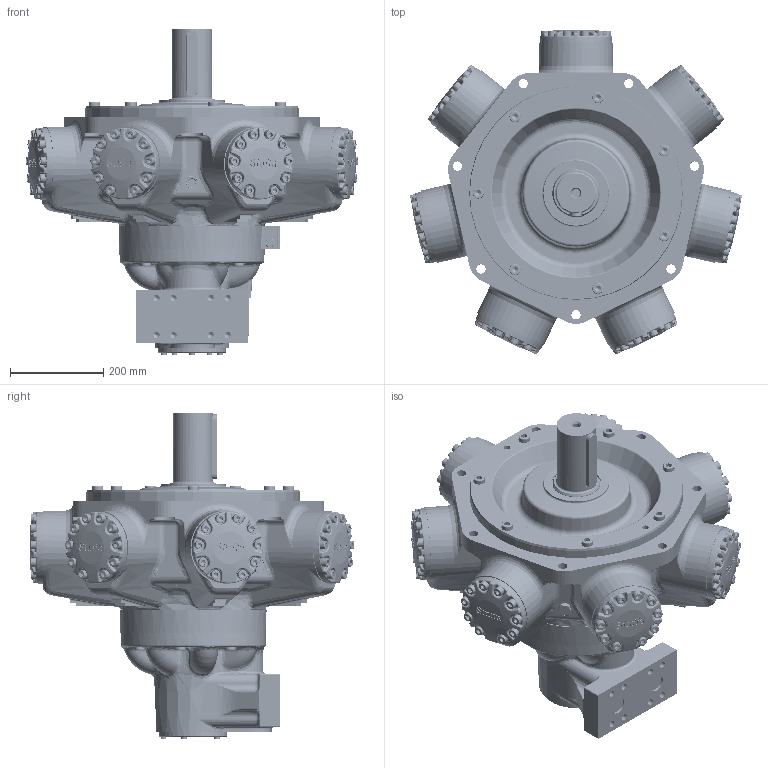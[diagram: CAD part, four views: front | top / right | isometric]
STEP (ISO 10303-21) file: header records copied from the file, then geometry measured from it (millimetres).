
FILE_DESCRIPTION(/* description */ (''),/* implementation_level */ '2;1');
FILE_NAME(/* name */ 'HMC270_P1_SFM4_CS_72.stp',/* time_stamp */ '2025-04-29T09:39:05+01:00',/* author */ ('ccallanga'),/* organization */ (''),/* preprocessor_version */ 'ST-DEVELOPER v20',/* originating_system */ 'Autodesk Inventor 2024',/* authorisation */ '');
FILE_SCHEMA (('AUTOMOTIVE_DESIGN { 1 0 10303 214 3 1 1 }'));
Products named in the file (1): 017752 HMC270 Web Assembly_Simplify_1
Bounding box: 711.04 x 695.71 x 698.32 mm (x, y, z)
Volume: 73414245.3 mm3; surface area: 1720057 mm2
Topology: 1 solids, 1 shells, 6940 faces, 17028 edges, 10170 vertices
Faces by surface type: bspline 2703, plane 1986, cylinder 1292, torus 504, cone 279, sphere 176
Full cylindrical faces by diameter (mm): 2.2 x4, 4 x1, 4.134 x4, 5.5 x9, 6 x1, 6.05 x2, 6.2 x1, 6.5 x1, 7 x2, 8.016 x1, 9.4 x1, 9.94 x1, 11.445 x3, 11.913 x5, 12 x1, 12.7 x5, 13.835 x9, 14.351 x2, 16.51 x1, 17.323 x2, 19 x1, 19.05 x70, 20 x7, 20.637 x70, 23.825 x14, 25 x1, 25.4 x14, 26.92 x2, 28.75 x1, 38 x2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
Entity records: 305347 total; most frequent: CARTESIAN_POINT 155675, ORIENTED_EDGE 33410, DIRECTION 23242, EDGE_CURVE 16705, VERTEX_POINT 10170, AXIS2_PLACEMENT_3D 8755, EDGE_LOOP 7361, STYLED_ITEM 6941
